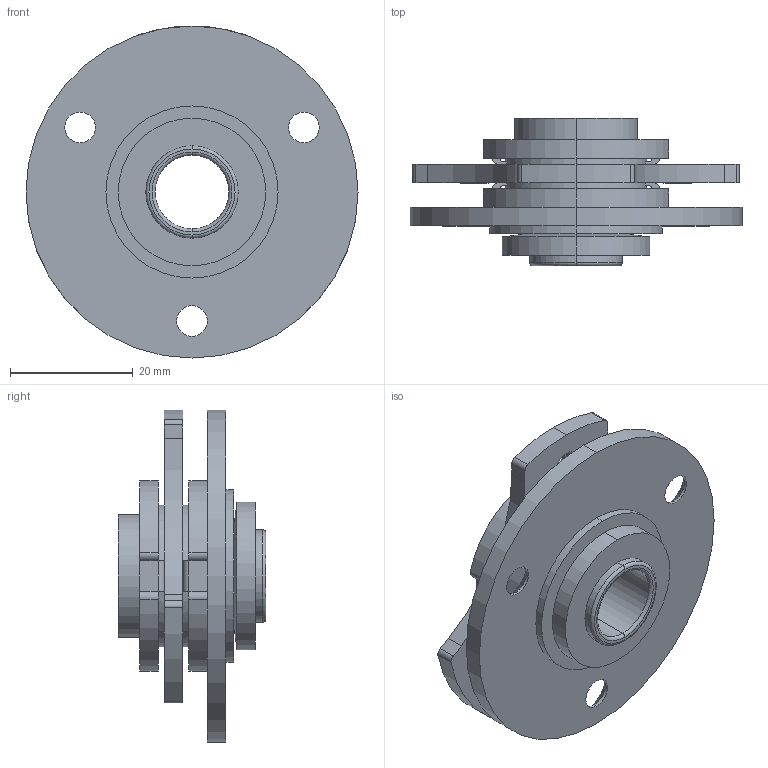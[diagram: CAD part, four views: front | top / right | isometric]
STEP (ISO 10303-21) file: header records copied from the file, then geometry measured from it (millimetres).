
FILE_DESCRIPTION (( 'STEP AP214' ), '1' );
FILE_NAME ('DP029-2.STEP', '2023-06-25T08:10:59', ( 'Windows 蚚誧' ), ( '' ), 'SwSTEP 2.0', 'SolidWorks 2019', '' );
FILE_SCHEMA (( 'AUTOMOTIVE_DESIGN' ));
Length unit declared in the file: millimetre
Products named in the file (1): DP029-2
Bounding box: 54 x 24 x 54 mm (x, y, z)
Volume: 17004 mm3; surface area: 15605.5 mm2
Topology: 8 solids, 8 shells, 203 faces, 526 edges, 341 vertices
Faces by surface type: cylinder 100, plane 56, cone 25, bspline 18, torus 4
Entity records: 10985 total; most frequent: CARTESIAN_POINT 5922, ORIENTED_EDGE 1052, DIRECTION 998, EDGE_CURVE 526, AXIS2_PLACEMENT_3D 385, VERTEX_POINT 341, EDGE_LOOP 233, VECTOR 228
